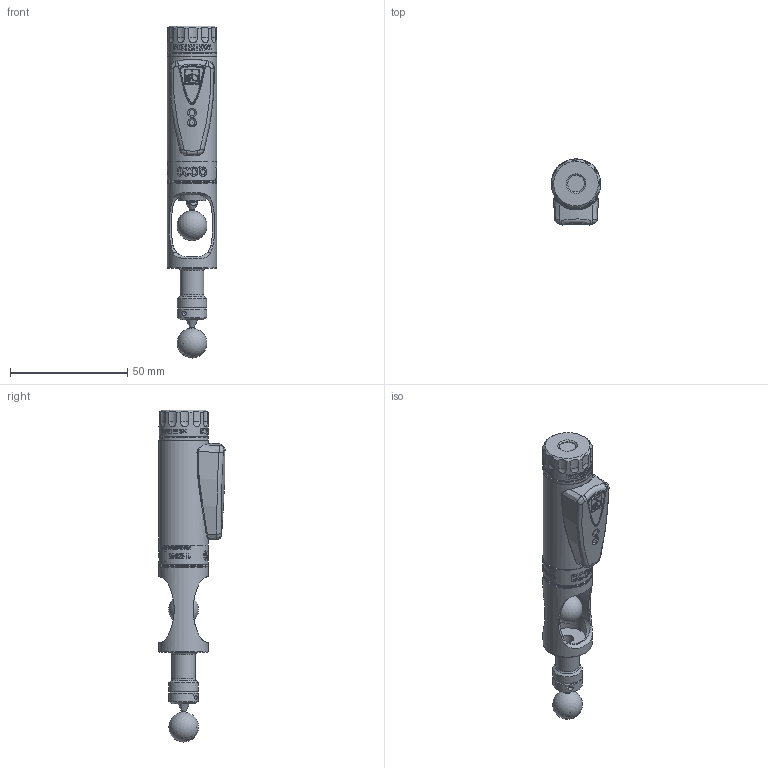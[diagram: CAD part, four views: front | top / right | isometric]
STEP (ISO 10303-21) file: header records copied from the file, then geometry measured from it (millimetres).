
FILE_DESCRIPTION(/* description */ (''),/* implementation_level */ '2;1');
FILE_NAME(/* name */ 'LA-8014-2501 QC20 + SMALL CIRCLE.stp',/* time_stamp */ '2022-01-27T09:15:29+00:00',/* author */ (''),/* organization */ (''),/* preprocessor_version */ 'ST-DEVELOPER v16.7',/* originating_system */ 'SIEMENS PLM Software NX 1946',/* authorisation */ '');
FILE_SCHEMA (('AP203_CONFIGURATION_CONTROLLED_3D_DESIGN_OF_MECHANICAL_PARTS_AND_ASSEMBLIES_MIM_LF { 1 0 10303 403 2 1 2}'));
Length unit declared in the file: millimetre
Products named in the file (1): rh1346B40FADd13l
Bounding box: 21 x 28.11 x 141.37 mm (x, y, z)
Volume: 35494.1 mm3; surface area: 13574.8 mm2
Topology: 4 solids, 20 shells, 863 faces, 2472 edges, 1773 vertices
Faces by surface type: bspline 409, cylinder 273, plane 69, cone 47, sphere 38, torus 23, extrusion 4
Full cylindrical faces by diameter (mm): 1.8 x1, 1.85 x2, 2.1 x2, 2.135 x1, 2.38 x1, 2.48 x1, 2.65 x1, 2.7 x1, 3.45 x1, 3.85 x2, 3.997 x1, 4 x1, 4.6 x1, 4.8 x1, 5.2 x1, 5.795 x1, 7.115 x1, 8.5 x1, 10 x1, 12.5 x2, 12.95 x1, 16.1 x2, 16.6 x1, 17.1 x1, 18 x1, 18.3 x1, 20.025 x2, 21 x6
Entity records: 39987 total; most frequent: CARTESIAN_POINT 20060, ORIENTED_EDGE 4562, EDGE_CURVE 2281, DIRECTION 2194, VERTEX_POINT 1708, B_SPLINE_CURVE_WITH_KNOTS 1544, EDGE_LOOP 1111, AXIS2_PLACEMENT_3D 999
